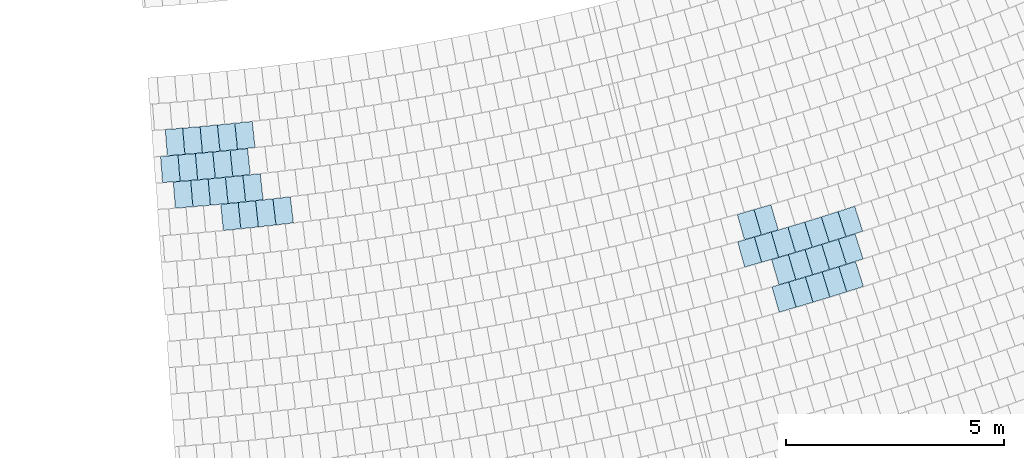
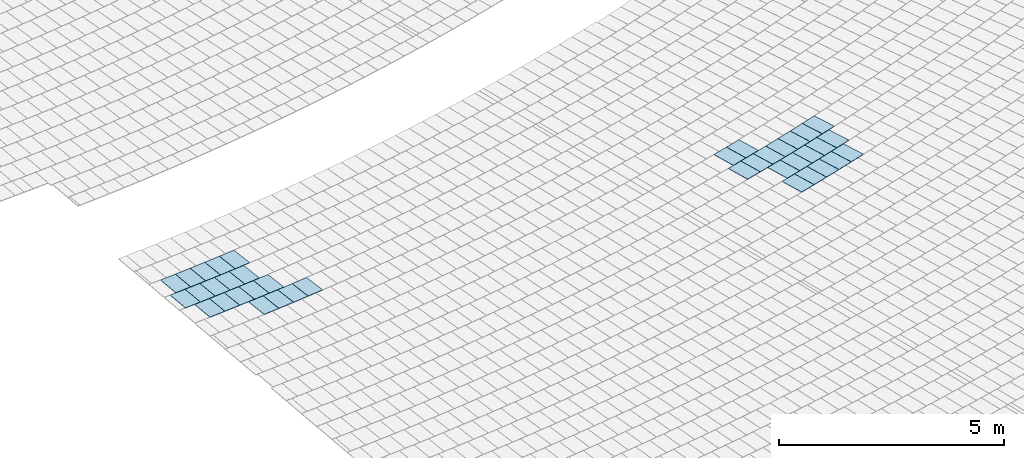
# One storey, part 53 of 438: 38 slabs.
"""IFC2X3 building model written with IfcOpenShell, lengths in millimetres."""

from ifc_helpers import new_model, entity, si_unit, converted_unit, derived_unit, direction, frame, frame_2d, origin, place, context, subcontext, project, spatial, polyline, rectangle, outline, extrude, material, layer, layer_set, layer_usage, type_object, element, save


model = new_model("IFC2X3")

# Units and contexts
model_context = context("Model", 3, precision=0.01, world=origin(), true_north=direction((6.123031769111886e-17, 1.0)))
body_context = subcontext(model_context, "Body", "Model", "MODEL_VIEW")
ifc_project = project(units=[si_unit("LENGTHUNIT", "METRE", prefix="MILLI"), si_unit("AREAUNIT", "SQUARE_METRE"), si_unit("VOLUMEUNIT", "CUBIC_METRE"), converted_unit("PLANEANGLEUNIT", "DEGREE", entity("IfcRatioMeasure", 0.017453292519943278), si_unit("PLANEANGLEUNIT", "RADIAN"), dimensions=[0, 0, 0, 0, 0, 0, 0]), si_unit("MASSUNIT", "GRAM", prefix="KILO"), derived_unit("MASSDENSITYUNIT", [(si_unit("MASSUNIT", "GRAM", prefix="KILO"), 1), (si_unit("LENGTHUNIT", "METRE"), -3)]), derived_unit("MOMENTOFINERTIAUNIT", [(si_unit("LENGTHUNIT", "METRE"), 4)]), si_unit("TIMEUNIT", "SECOND"), si_unit("FREQUENCYUNIT", "HERTZ"), si_unit("THERMODYNAMICTEMPERATUREUNIT", "DEGREE_CELSIUS"), derived_unit("THERMALTRANSMITTANCEUNIT", [(si_unit("MASSUNIT", "GRAM", prefix="KILO"), 1), (si_unit("THERMODYNAMICTEMPERATUREUNIT", "KELVIN"), -1), (si_unit("TIMEUNIT", "SECOND"), -3)]), derived_unit("THERMALCONDUCTANCEUNIT", [(si_unit("MASSUNIT", "GRAM", prefix="KILO"), 1), (si_unit("LENGTHUNIT", "METRE"), 1), (si_unit("THERMODYNAMICTEMPERATUREUNIT", "KELVIN"), -1), (si_unit("TIMEUNIT", "SECOND"), -3)]), derived_unit("VOLUMETRICFLOWRATEUNIT", [(si_unit("LENGTHUNIT", "METRE"), 3), (si_unit("TIMEUNIT", "SECOND"), -1)]), derived_unit("MASSFLOWRATEUNIT", [(si_unit("MASSUNIT", "GRAM", prefix="KILO"), 1), (si_unit("TIMEUNIT", "SECOND"), -1)]), derived_unit("ROTATIONALFREQUENCYUNIT", [(si_unit("TIMEUNIT", "SECOND"), -1)]), si_unit("ELECTRICCURRENTUNIT", "AMPERE"), si_unit("ELECTRICVOLTAGEUNIT", "VOLT"), si_unit("POWERUNIT", "WATT"), converted_unit("FORCEUNIT", "KIP", entity("IfcRatioMeasure", 2.088543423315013e-05), si_unit("FORCEUNIT", "NEWTON"), dimensions=[1, 1, -2, 0, 0, 0, 0]), si_unit("ILLUMINANCEUNIT", "LUX"), si_unit("LUMINOUSFLUXUNIT", "LUMEN"), si_unit("LUMINOUSINTENSITYUNIT", "CANDELA"), derived_unit("USERDEFINED", [(si_unit("MASSUNIT", "GRAM", prefix="KILO"), -1), (si_unit("LENGTHUNIT", "METRE"), -2), (si_unit("TIMEUNIT", "SECOND"), 3), (si_unit("LUMINOUSFLUXUNIT", "LUMEN"), 1)]), derived_unit("USERDEFINED", [(si_unit("MASSUNIT", "GRAM", prefix="KILO"), 1), (si_unit("LENGTHUNIT", "METRE"), 3), (si_unit("TIMEUNIT", "SECOND"), -3), (si_unit("ELECTRICCURRENTUNIT", "AMPERE"), -2)]), derived_unit("USERDEFINED", [(si_unit("LENGTHUNIT", "METRE"), 2), (si_unit("TIMEUNIT", "SECOND"), -2)]), derived_unit("SOUNDPOWERUNIT", [(si_unit("MASSUNIT", "GRAM", prefix="KILO"), 1), (si_unit("LENGTHUNIT", "METRE"), 2), (si_unit("TIMEUNIT", "SECOND"), -3)]), derived_unit("SOUNDPRESSUREUNIT", [(si_unit("MASSUNIT", "GRAM", prefix="KILO"), 1), (si_unit("LENGTHUNIT", "METRE"), -1), (si_unit("TIMEUNIT", "SECOND"), -2)]), derived_unit("LINEARVELOCITYUNIT", [(si_unit("LENGTHUNIT", "METRE"), 1), (si_unit("TIMEUNIT", "SECOND"), -1)]), si_unit("PRESSUREUNIT", "PASCAL"), derived_unit("USERDEFINED", [(si_unit("LENGTHUNIT", "METRE"), -2), (si_unit("MASSUNIT", "GRAM", prefix="KILO"), 1), (si_unit("TIMEUNIT", "SECOND"), -2)]), derived_unit("LINEARFORCEUNIT", [(si_unit("MASSUNIT", "GRAM", prefix="KILO"), 1), (si_unit("LENGTHUNIT", "METRE"), 1), (si_unit("TIMEUNIT", "SECOND"), -2), (si_unit("LENGTHUNIT", "METRE"), -1)]), derived_unit("PLANARFORCEUNIT", [(si_unit("MASSUNIT", "GRAM", prefix="KILO"), 1), (si_unit("LENGTHUNIT", "METRE"), 1), (si_unit("TIMEUNIT", "SECOND"), -2), (si_unit("LENGTHUNIT", "METRE"), -2)]), derived_unit("SPECIFICHEATCAPACITYUNIT", [(si_unit("LENGTHUNIT", "METRE"), 2), (si_unit("TIMEUNIT", "SECOND"), -2), (si_unit("THERMODYNAMICTEMPERATUREUNIT", "KELVIN"), -1)]), derived_unit("VAPORPERMEABILITYUNIT", [(si_unit("TIMEUNIT", "SECOND"), 1), (si_unit("LENGTHUNIT", "METRE"), -1)]), derived_unit("DYNAMICVISCOSITYUNIT", [(si_unit("MASSUNIT", "GRAM", prefix="KILO"), 1), (si_unit("LENGTHUNIT", "METRE"), -1), (si_unit("TIMEUNIT", "SECOND"), -1)]), derived_unit("THERMALEXPANSIONCOEFFICIENTUNIT", [(si_unit("THERMODYNAMICTEMPERATUREUNIT", "KELVIN"), -1)])], contexts=[model_context])

# Site, building, storey
site_placement = place(None, frame((0.0, 0.0, 0.0), z_axis=(0.0, 0.0, 1.0), x_axis=(0.8191520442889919, 0.5735764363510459, 0.0)))
site = spatial("IfcSite", under=ifc_project, at=site_placement, Name="Default", CompositionType="ELEMENT")
building_placement = place(site_placement, origin())
building = spatial("IfcBuilding", under=site, at=building_placement, CompositionType="ELEMENT")
storey_placement = place(building_placement, origin())
storey = spatial("IfcBuildingStorey", under=building, at=storey_placement, Name="PLAN", CompositionType="ELEMENT", Elevation=0.0)

# Slabs
ifc_material = material(Name="Paint-01")
ifc_layer = layer(ifc_material, 20.00000000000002)
ifc_layer_set = layer_set([ifc_layer], Name="Floor:Slab-179:1000")
ifc_layer_usage = layer_usage(ifc_layer_set, "AXIS3", "POSITIVE", 0.0)
slab_type = type_object("IfcSlabType", Name="Floor:Slab-179:1000", PredefinedType="FLOOR", material=ifc_layer_set)
slab_1_placement = place(storey_placement, origin())
element("IfcSlab", 1, at=slab_1_placement, inside=storey, type_object=slab_type, material=ifc_layer_usage, Name="Floor:Slab-179:1000", ObjectType="Floor:Slab-179:1000", PredefinedType="FLOOR", context=body_context, shape_type="SweptSolid", body=[
    extrude(outline(polyline([(-300.0000010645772, -200.0000029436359), (299.9999989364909, -200.00000294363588), (300.0000010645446, 200.00000294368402), (-299.9999989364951, 200.00000294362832), (-300.0000010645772, -200.0000029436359)])), frame((-71324.44986486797, -123055.56187801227, 20.0), z_axis=(0.0, 0.0, -1.0), x_axis=(-0.4903105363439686, -0.8715478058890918, 0.0)), (0.0, 0.0, 1.0), 20.00000000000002),
])
slab_2_placement = place(storey_placement, origin())
element("IfcSlab", 2, at=slab_2_placement, inside=storey, type_object=slab_type, material=ifc_layer_usage, Name="Floor:Slab-179:1000", ObjectType="Floor:Slab-179:1000", PredefinedType="FLOOR", context=body_context, shape_type="SweptSolid", body=[
    extrude(outline(polyline([(-300.0000010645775, -200.00000294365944), (299.99999893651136, -200.00000294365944), (300.00000106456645, 200.00000294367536), (-299.9999989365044, 200.00000294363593), (-300.0000010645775, -200.00000294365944)])), frame((-70621.4038906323, -123445.21542665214, 20.0), z_axis=(0.0, 0.0, -1.0), x_axis=(-0.4791916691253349, -0.8777102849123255, 0.0)), (0.0, 0.0, 1.0), 20.00000000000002),
])
slab_3_placement = place(storey_placement, origin())
element("IfcSlab", 3, at=slab_3_placement, inside=storey, type_object=slab_type, material=ifc_layer_usage, Name="Floor:Slab-179:1000", ObjectType="Floor:Slab-179:1000", PredefinedType="FLOOR", context=body_context, shape_type="SweptSolid", body=[
    extrude(outline(polyline([(-300.0000010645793, -200.000002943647), (299.99999893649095, -200.000002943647), (300.0000010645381, 200.0000029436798), (-299.99999893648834, 200.00000294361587), (-300.0000010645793, -200.000002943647)])), frame((-70973.5460634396, -123251.50583965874, 20.0), z_axis=(0.0, 0.0, -1.0), x_axis=(-0.48476089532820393, -0.8746467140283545, 0.0)), (0.0, 0.0, 1.0), 20.00000000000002),
])
slab_4_placement = place(storey_placement, origin())
element("IfcSlab", 4, at=slab_4_placement, inside=storey, type_object=slab_type, material=ifc_layer_usage, Name="Floor:Slab-179:1000", ObjectType="Floor:Slab-179:1000", PredefinedType="FLOOR", context=body_context, shape_type="SweptSolid", body=[
    extrude(outline(polyline([(-300.00000106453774, -200.00000294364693), (299.99999893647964, -200.00000294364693), (300.00000106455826, 200.0000029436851), (-299.9999989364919, 200.00000294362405), (-300.00000106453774, -200.00000294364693)])), frame((-70268.03757360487, -123636.682812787, 20.0), z_axis=(0.0, 0.0, -1.0), x_axis=(-0.47360308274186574, -0.8807383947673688, 0.0)), (0.0, 0.0, 1.0), 20.000000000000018),
])
slab_5_placement = place(storey_placement, origin())
element("IfcSlab", 5, at=slab_5_placement, inside=storey, type_object=slab_type, material=ifc_layer_usage, Name="Floor:Slab-179:1000", ObjectType="Floor:Slab-179:1000", PredefinedType="FLOOR", context=body_context, shape_type="SweptSolid", body=[
    extrude(outline(polyline([(-300.0000010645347, -200.00000294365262), (299.99999893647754, -200.00000294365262), (300.0000010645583, 200.00000294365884), (-299.9999989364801, 200.00000294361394), (-300.0000010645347, -200.00000294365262)])), frame((-71927.92090156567, -122012.0337767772, 20.0), z_axis=(0.0, 0.0, -1.0), x_axis=(-0.5046835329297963, -0.8633044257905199, 0.0)), (0.0, 0.0, 1.0), 20.00000000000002),
])
slab_6_placement = place(storey_placement, origin())
element("IfcSlab", 6, at=slab_6_placement, inside=storey, type_object=slab_type, material=ifc_layer_usage, Name="Floor:Slab-179:1000", ObjectType="Floor:Slab-179:1000", PredefinedType="FLOOR", context=body_context, shape_type="SweptSolid", body=[
    extrude(rectangle(XDim=599.9996991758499, YDim=399.99980533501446, at=frame_2d((-1.1851852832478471e-11, -3.169020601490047e-12), x_axis=(1.0, 0.0))), frame((-71580.44960693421, -122213.43971218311, 20.0), z_axis=(0.0, 0.0, -1.0), x_axis=(-0.5000000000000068, -0.8660254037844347, 0.0)), (0.0, 0.0, 1.0), 20.00000000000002),
])
slab_7_placement = place(storey_placement, origin())
element("IfcSlab", 7, at=slab_7_placement, inside=storey, type_object=slab_type, material=ifc_layer_usage, Name="Floor:Slab-179:1000", ObjectType="Floor:Slab-179:1000", PredefinedType="FLOOR", context=body_context, shape_type="SweptSolid", body=[
    extrude(outline(polyline([(-300.0000010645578, -200.0000029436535), (299.9999989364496, -200.0000029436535), (300.0000010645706, 200.0000029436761), (-299.9999989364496, 200.0000029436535), (-300.0000010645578, -200.0000029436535)])), frame((-71231.37073717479, -122413.25772874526, 20.0), z_axis=(0.0, 0.0, -1.0), x_axis=(-0.49356097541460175, -0.8697111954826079, 0.0)), (0.0, 0.0, 1.0), 20.00000000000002),
])
slab_8_placement = place(storey_placement, origin())
element("IfcSlab", 8, at=slab_8_placement, inside=storey, type_object=slab_type, material=ifc_layer_usage, Name="Floor:Slab-179:1000", ObjectType="Floor:Slab-179:1000", PredefinedType="FLOOR", context=body_context, shape_type="SweptSolid", body=[
    extrude(outline(polyline([(-300.00000106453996, -200.00000294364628), (299.99999893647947, -200.00000294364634), (300.0000010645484, 200.00000294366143), (-299.99999893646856, 200.0000029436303), (-300.00000106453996, -200.00000294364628)])), frame((-70881.17874432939, -122610.50865881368, 20.0), z_axis=(0.0, 0.0, -1.0), x_axis=(-0.48796908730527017, -0.8728609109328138, 0.0)), (0.0, 0.0, 1.0), 20.00000000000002),
])
slab_9_placement = place(storey_placement, origin())
element("IfcSlab", 9, at=slab_9_placement, inside=storey, type_object=slab_type, material=ifc_layer_usage, Name="Floor:Slab-179:1000", ObjectType="Floor:Slab-179:1000", PredefinedType="FLOOR", context=body_context, shape_type="SweptSolid", body=[
    extrude(outline(polyline([(-300.0000010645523, -200.0000029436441), (299.9999989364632, -200.0000029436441), (300.000001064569, 200.00000294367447), (-299.9999989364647, 200.00000294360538), (-300.0000010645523, -200.0000029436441)])), frame((-70529.72802607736, -122805.50802780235, 20.0), z_axis=(0.0, 0.0, -1.0), x_axis=(-0.4823570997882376, -0.8759746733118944, 0.0)), (0.0, 0.0, 1.0), 20.00000000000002),
])
slab_10_placement = place(storey_placement, origin())
element("IfcSlab", 10, at=slab_10_placement, inside=storey, type_object=slab_type, material=ifc_layer_usage, Name="Floor:Slab-179:1000", ObjectType="Floor:Slab-179:1000", PredefinedType="FLOOR", context=body_context, shape_type="SweptSolid", body=[
    extrude(outline(polyline([(-300.00000106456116, -200.00000294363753), (299.99999893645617, -200.0000029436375), (300.00000106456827, 200.00000294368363), (-299.9999989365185, 200.00000294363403), (-300.00000106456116, -200.00000294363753)])), frame((-71832.8962809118, -121366.23356572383, 20.0), z_axis=(0.0, 0.0, -1.0), x_axis=(-0.5080745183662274, -0.8613131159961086, 0.0)), (0.0, 0.0, 1.0), 20.00000000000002),
])
slab_11_placement = place(storey_placement, origin())
element("IfcSlab", 11, at=slab_11_placement, inside=storey, type_object=slab_type, material=ifc_layer_usage, Name="Floor:Slab-179:1000", ObjectType="Floor:Slab-179:1000", PredefinedType="FLOOR", context=body_context, shape_type="SweptSolid", body=[
    extrude(outline(polyline([(-300.00000106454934, -200.00000294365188), (299.9999989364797, -200.00000294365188), (300.00000106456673, 200.00000294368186), (-299.9999989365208, 200.00000294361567), (-300.00000106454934, -200.00000294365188)])), frame((-71486.03829597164, -121569.32723453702, 20.0), z_axis=(0.0, 0.0, -1.0), x_axis=(-0.5024818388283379, -0.8645877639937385, 0.0)), (0.0, 0.0, 1.0), 20.000000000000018),
])
slab_12_placement = place(storey_placement, origin())
element("IfcSlab", 12, at=slab_12_placement, inside=storey, type_object=slab_type, material=ifc_layer_usage, Name="Floor:Slab-179:1000", ObjectType="Floor:Slab-179:1000", PredefinedType="FLOOR", context=body_context, shape_type="SweptSolid", body=[
    extrude(outline(polyline([(-300.00000106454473, -200.00000294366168), (299.9999989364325, -200.00000294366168), (300.0000010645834, 200.00000294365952), (-299.9999989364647, 200.00000294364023), (-300.00000106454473, -200.00000294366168)])), frame((-71137.87138311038, -121770.16871635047, 20.0), z_axis=(0.0, 0.0, -1.0), x_axis=(-0.49686805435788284, -0.8678260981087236, 0.0)), (0.0, 0.0, 1.0), 20.00000000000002),
])
slab_13_placement = place(storey_placement, origin())
element("IfcSlab", 13, at=slab_13_placement, inside=storey, type_object=slab_type, material=ifc_layer_usage, Name="Floor:Slab-179:1000", ObjectType="Floor:Slab-179:1000", PredefinedType="FLOOR", context=body_context, shape_type="SweptSolid", body=[
    extrude(outline(polyline([(-300.0000010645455, -200.0000029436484), (299.99999893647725, -200.00000294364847), (300.00000106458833, 200.00000294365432), (-299.99999893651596, 200.00000294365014), (-300.0000010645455, -200.0000029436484)])), frame((-70437.66932195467, -122165.06147144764, 20.0), z_axis=(0.0, 0.0, -1.0), x_axis=(-0.48557811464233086, -0.8741932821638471, 0.0)), (0.0, 0.0, 1.0), 20.000000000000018),
])
slab_14_placement = place(storey_placement, origin())
element("IfcSlab", 14, at=slab_14_placement, inside=storey, type_object=slab_type, material=ifc_layer_usage, Name="Floor:Slab-179:1000", ObjectType="Floor:Slab-179:1000", PredefinedType="FLOOR", context=body_context, shape_type="SweptSolid", body=[
    extrude(outline(polyline([(-300.0000010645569, -200.00000294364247), (299.999998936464, -200.00000294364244), (300.0000010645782, 200.00000294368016), (-299.9999989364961, 200.0000029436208), (-300.0000010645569, -200.00000294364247)])), frame((-70788.4101658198, -121968.74957554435, 20.0), z_axis=(0.0, 0.0, -1.0), x_axis=(-0.4912334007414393, -0.8710279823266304, 0.0)), (0.0, 0.0, 1.0), 20.000000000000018),
])
slab_15_placement = place(storey_placement, origin())
element("IfcSlab", 15, at=slab_15_placement, inside=storey, type_object=slab_type, material=ifc_layer_usage, Name="Floor:Slab-179:1000", ObjectType="Floor:Slab-179:1000", PredefinedType="FLOOR", context=body_context, shape_type="SweptSolid", body=[
    extrude(outline(polyline([(-300.0000010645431, -200.00000294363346), (299.9999989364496, -200.00000294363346), (300.0000010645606, 200.0000029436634), (-299.9999989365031, 200.0000029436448), (-300.0000010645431, -200.00000294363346)])), frame((-71391.33096595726, -120924.06079852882, 20.0), z_axis=(0.0, 0.0, -1.0), x_axis=(-0.5058897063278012, -0.862598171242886, 0.0)), (0.0, 0.0, 1.0), 20.00000000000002),
])
slab_16_placement = place(storey_placement, origin())
element("IfcSlab", 16, at=slab_16_placement, inside=storey, type_object=slab_type, material=ifc_layer_usage, Name="Floor:Slab-179:1000", ObjectType="Floor:Slab-179:1000", PredefinedType="FLOOR", context=body_context, shape_type="SweptSolid", body=[
    extrude(rectangle(XDim=599.9999782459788, YDim=399.9999913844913, at=frame_2d((1.5006662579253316e-11, -8.65441052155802e-12), x_axis=(1.0, 0.0))), frame((-71043.89319218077, -121126.36018318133, 20.0), z_axis=(0.0, 0.0, -1.0), x_axis=(-0.5000000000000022, -0.8660254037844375, 0.0)), (0.0, 0.0, 1.0), 20.00000000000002),
])
slab_17_placement = place(storey_placement, origin())
element("IfcSlab", 17, at=slab_17_placement, inside=storey, type_object=slab_type, material=ifc_layer_usage, Name="Floor:Slab-179:1000", ObjectType="Floor:Slab-179:1000", PredefinedType="FLOOR", context=body_context, shape_type="SweptSolid", body=[
    extrude(outline(polyline([(-300.0000010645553, -200.00000294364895), (299.99999893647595, -200.0000029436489), (300.0000010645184, 200.0000029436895), (-299.9999989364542, 200.0000029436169), (-300.0000010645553, -200.00000294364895)])), frame((-70345.2135894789, -121523.85522774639, 20.0), z_axis=(0.0, 0.0, -1.0), x_axis=(-0.4888561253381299, -0.8723644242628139, 0.0)), (0.0, 0.0, 1.0), 20.00000000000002),
])
slab_18_placement = place(storey_placement, origin())
element("IfcSlab", 18, at=slab_18_placement, inside=storey, type_object=slab_type, material=ifc_layer_usage, Name="Floor:Slab-179:1000", ObjectType="Floor:Slab-179:1000", PredefinedType="FLOOR", context=body_context, shape_type="SweptSolid", body=[
    extrude(outline(polyline([(-300.0000010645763, -200.00000294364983), (299.99999893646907, -200.00000294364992), (300.00000106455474, 200.00000294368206), (-299.99999893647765, 200.00000294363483), (-300.0000010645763, -200.00000294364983)])), frame((-70695.2254558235, -121326.20747963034, 20.0), z_axis=(0.0, 0.0, -1.0), x_axis=(-0.4945552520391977, -0.8691461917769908, 0.0)), (0.0, 0.0, 1.0), 20.00000000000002),
])
slab_19_placement = place(storey_placement, origin())
element("IfcSlab", 19, at=slab_19_placement, inside=storey, type_object=slab_type, material=ifc_layer_usage, Name="Floor:Slab-179:1000", ObjectType="Floor:Slab-179:1000", PredefinedType="FLOOR", context=body_context, shape_type="SweptSolid", body=[
    extrude(outline(polyline([(-300.00000106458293, -200.0000029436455), (299.9999989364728, -200.0000029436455), (300.0000010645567, 200.0000029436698), (-299.9999989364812, 200.00000294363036), (-300.00000106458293, -200.0000029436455)])), frame((-69993.91562167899, -121719.20792605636, 20.0), z_axis=(0.0, 0.0, -1.0), x_axis=(-0.4831360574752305, -0.8755452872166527, 0.0)), (0.0, 0.0, 1.0), 20.00000000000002),
])
slab_20_placement = place(storey_placement, origin())
element("IfcSlab", 20, at=slab_20_placement, inside=storey, type_object=slab_type, material=ifc_layer_usage, Name="Floor:Slab-179:1000", ObjectType="Floor:Slab-179:1000", PredefinedType="FLOOR", context=body_context, shape_type="SweptSolid", body=[
    extrude(outline(polyline([(-300.0000010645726, -200.00000294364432), (299.99999893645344, -200.00000294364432), (300.00000106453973, 200.0000029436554), (-299.99999893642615, 200.0000029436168), (-300.0000010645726, -200.00000294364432)])), frame((-61324.90516006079, -130147.3150987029, 20.0), z_axis=(0.0, 0.0, -1.0), x_axis=(-0.31992064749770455, -0.9474443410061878, 0.0)), (0.0, 0.0, 1.0), 20.00000000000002),
])
slab_21_placement = place(storey_placement, origin())
element("IfcSlab", 21, at=slab_21_placement, inside=storey, type_object=slab_type, material=ifc_layer_usage, Name="Floor:Slab-179:1000", ObjectType="Floor:Slab-179:1000", PredefinedType="FLOOR", context=body_context, shape_type="SweptSolid", body=[
    extrude(outline(polyline([(-300.0000010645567, -200.00000294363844), (299.999998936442, -200.00000294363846), (300.00000106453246, 200.0000029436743), (-299.99999893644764, 200.0000029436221), (-300.0000010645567, -200.00000294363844)])), frame((-61705.22566238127, -130017.5954287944, 20.0), z_axis=(0.0, 0.0, -1.0), x_axis=(-0.3257138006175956, -0.9454684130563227, 0.0)), (0.0, 0.0, 1.0), 20.00000000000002),
])
slab_22_placement = place(storey_placement, origin())
element("IfcSlab", 22, at=slab_22_placement, inside=storey, type_object=slab_type, material=ifc_layer_usage, Name="Floor:Slab-179:1000", ObjectType="Floor:Slab-179:1000", PredefinedType="FLOOR", context=body_context, shape_type="SweptSolid", body=[
    extrude(outline(polyline([(-300.00000106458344, -200.00000294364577), (299.9999989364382, -200.00000294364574), (300.00000106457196, 200.00000294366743), (-299.99999893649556, 200.00000294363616), (-300.00000106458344, -200.00000294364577)])), frame((-59767.400096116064, -131284.83354462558, 20.0), z_axis=(0.0, 0.0, -1.0), x_axis=(-0.29349159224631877, -0.9559616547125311, 0.0)), (0.0, 0.0, 1.0), 20.00000000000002),
])
slab_23_placement = place(storey_placement, origin())
element("IfcSlab", 23, at=slab_23_placement, inside=storey, type_object=slab_type, material=ifc_layer_usage, Name="Floor:Slab-179:1000", ObjectType="Floor:Slab-179:1000", PredefinedType="FLOOR", context=body_context, shape_type="SweptSolid", body=[
    extrude(outline(polyline([(-300.0000010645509, -200.00000294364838), (299.99999893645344, -200.00000294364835), (300.00000106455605, 200.0000029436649), (-299.9999989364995, 200.00000294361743), (-300.0000010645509, -200.00000294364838)])), frame((-60151.16292347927, -131165.73920971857, 20.0), z_axis=(0.0, 0.0, -1.0), x_axis=(-0.2992838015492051, -0.9541641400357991, 0.0)), (0.0, 0.0, 1.0), 20.00000000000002),
])
slab_24_placement = place(storey_placement, origin())
element("IfcSlab", 24, at=slab_24_placement, inside=storey, type_object=slab_type, material=ifc_layer_usage, Name="Floor:Slab-179:1000", ObjectType="Floor:Slab-179:1000", PredefinedType="FLOOR", context=body_context, shape_type="SweptSolid", body=[
    extrude(outline(polyline([(-300.0000010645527, -200.00000294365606), (299.9999989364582, -200.00000294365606), (300.0000010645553, 200.00000294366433), (-299.9999989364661, 200.00000294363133), (-300.0000010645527, -200.00000294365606)])), frame((-60534.19642362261, -131044.31966417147, 20.0), z_axis=(0.0, 0.0, -1.0), x_axis=(-0.30506500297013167, -0.952331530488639, 0.0)), (0.0, 0.0, 1.0), 20.000000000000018),
])
slab_25_placement = place(storey_placement, origin())
element("IfcSlab", 25, at=slab_25_placement, inside=storey, type_object=slab_type, material=ifc_layer_usage, Name="Floor:Slab-179:1000", ObjectType="Floor:Slab-179:1000", PredefinedType="FLOOR", context=body_context, shape_type="SweptSolid", body=[
    extrude(outline(polyline([(-300.00000106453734, -200.0000029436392), (299.9999989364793, -200.0000029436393), (300.0000010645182, 200.00000294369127), (-299.99999893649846, 200.00000294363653), (-300.00000106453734, -200.0000029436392)])), frame((-61298.01911655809, -130794.52289012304, 20.0), z_axis=(0.0, 0.0, -1.0), x_axis=(-0.31659353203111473, -0.9485612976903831, 0.0)), (0.0, 0.0, 1.0), 20.00000000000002),
])
slab_26_placement = place(storey_placement, origin())
element("IfcSlab", 26, at=slab_26_placement, inside=storey, type_object=slab_type, material=ifc_layer_usage, Name="Floor:Slab-179:1000", ObjectType="Floor:Slab-179:1000", PredefinedType="FLOOR", context=body_context, shape_type="SweptSolid", body=[
    extrude(outline(polyline([(-300.0000010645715, -200.00000294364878), (299.99999893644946, -200.00000294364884), (300.00000106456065, 200.00000294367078), (-299.999998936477, 200.0000029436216), (-300.0000010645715, -200.00000294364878)])), frame((-61678.78021538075, -130666.15484933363, 20.0), z_axis=(0.0, 0.0, -1.0), x_axis=(-0.32234043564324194, -0.9466238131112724, 0.0)), (0.0, 0.0, 1.0), 20.000000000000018),
])
slab_27_placement = place(storey_placement, origin())
element("IfcSlab", 27, at=slab_27_placement, inside=storey, type_object=slab_type, material=ifc_layer_usage, Name="Floor:Slab-179:1000", ObjectType="Floor:Slab-179:1000", PredefinedType="FLOOR", context=body_context, shape_type="SweptSolid", body=[
    extrude(outline(polyline([(-300.00000106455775, -200.0000029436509), (299.99999893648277, -200.00000294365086), (300.0000010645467, 200.00000294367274), (-299.99999893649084, 200.00000294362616), (-300.00000106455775, -200.0000029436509)])), frame((-60916.48650828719, -130920.57937388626, 20.0), z_axis=(0.0, 0.0, -1.0), x_axis=(-0.31083498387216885, -0.9504638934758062, 0.0)), (0.0, 0.0, 1.0), 20.000000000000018),
])
slab_28_placement = place(storey_placement, origin())
element("IfcSlab", 28, at=slab_28_placement, inside=storey, type_object=slab_type, material=ifc_layer_usage, Name="Floor:Slab-179:1000", ObjectType="Floor:Slab-179:1000", PredefinedType="FLOOR", context=body_context, shape_type="SweptSolid", body=[
    extrude(outline(polyline([(-300.0000010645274, -200.00000294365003), (299.99999893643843, -200.00000294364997), (300.000001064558, 200.00000294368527), (-299.999998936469, 200.0000029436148), (-300.0000010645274, -200.00000294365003)])), frame((-62058.75580007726, -130535.47997299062, 20.0), z_axis=(0.0, 0.0, -1.0), x_axis=(-0.32807548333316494, -0.9446515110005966, 0.0)), (0.0, 0.0, 1.0), 20.000000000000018),
])
slab_29_placement = place(storey_placement, origin())
element("IfcSlab", 29, at=slab_29_placement, inside=storey, type_object=slab_type, material=ifc_layer_usage, Name="Floor:Slab-179:1000", ObjectType="Floor:Slab-179:1000", PredefinedType="FLOOR", context=body_context, shape_type="SweptSolid", body=[
    extrude(outline(polyline([(-300.0000010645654, -200.00000294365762), (299.9999989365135, -200.00000294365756), (300.00000106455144, 200.00000294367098), (-299.9999989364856, 200.00000294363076), (-300.0000010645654, -200.00000294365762)])), frame((-60122.84627178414, -131808.30681761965, 20.0), z_axis=(0.0, 0.0, -1.0), x_axis=(-0.2961521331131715, -0.9551407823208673, 0.0)), (0.0, 0.0, 1.0), 20.00000000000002),
])
slab_30_placement = place(storey_placement, origin())
element("IfcSlab", 30, at=slab_30_placement, inside=storey, type_object=slab_type, material=ifc_layer_usage, Name="Floor:Slab-179:1000", ObjectType="Floor:Slab-179:1000", PredefinedType="FLOOR", context=body_context, shape_type="SweptSolid", body=[
    extrude(outline(polyline([(-300.00000106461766, -200.00000294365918), (299.9999989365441, -200.00000294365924), (300.0000010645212, 200.00000294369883), (-299.99999893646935, 200.00000294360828), (-300.00000106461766, -200.00000294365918)])), frame((-60506.26358071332, -131688.15993920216, 20.0), z_axis=(0.0, 0.0, -1.0), x_axis=(-0.30188676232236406, -0.9533437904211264, 0.0)), (0.0, 0.0, 1.0), 20.00000000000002),
])
slab_31_placement = place(storey_placement, origin())
element("IfcSlab", 31, at=slab_31_placement, inside=storey, type_object=slab_type, material=ifc_layer_usage, Name="Floor:Slab-179:1000", ObjectType="Floor:Slab-179:1000", PredefinedType="FLOOR", context=body_context, shape_type="SweptSolid", body=[
    extrude(outline(polyline([(-300.0000010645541, -200.00000294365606), (299.99999893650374, -200.00000294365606), (300.00000106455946, 200.00000294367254), (-299.99999893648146, 200.00000294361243), (-300.0000010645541, -200.00000294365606)])), frame((-60888.95193603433, -131565.71106055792, 20.0), z_axis=(0.0, 0.0, -1.0), x_axis=(-0.3076104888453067, -0.95151236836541, 0.0)), (0.0, 0.0, 1.0), 20.000000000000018),
])
slab_32_placement = place(storey_placement, origin())
element("IfcSlab", 32, at=slab_32_placement, inside=storey, type_object=slab_type, material=ifc_layer_usage, Name="Floor:Slab-179:1000", ObjectType="Floor:Slab-179:1000", PredefinedType="FLOOR", context=body_context, shape_type="SweptSolid", body=[
    extrude(outline(polyline([(-300.000001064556, -200.00000294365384), (299.9999989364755, -200.00000294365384), (300.00000106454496, 200.00000294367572), (-299.9999989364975, 200.0000029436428), (-300.000001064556, -200.00000294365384)])), frame((-61270.89751690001, -131440.96460394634, 20.0), z_axis=(0.0, 0.0, -1.0), x_axis=(-0.3133231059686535, -0.9496465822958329, 0.0)), (0.0, 0.0, 1.0), 20.000000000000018),
])
slab_33_placement = place(storey_placement, origin())
element("IfcSlab", 33, at=slab_33_placement, inside=storey, type_object=slab_type, material=ifc_layer_usage, Name="Floor:Slab-179:1000", ObjectType="Floor:Slab-179:1000", PredefinedType="FLOOR", context=body_context, shape_type="SweptSolid", body=[
    extrude(outline(polyline([(-300.0000010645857, -200.0000029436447), (299.999998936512, -200.0000029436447), (300.0000010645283, 200.00000294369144), (-299.9999989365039, 200.0000029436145), (-300.0000010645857, -200.0000029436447)])), frame((-61652.08652928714, -131313.92507460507, 20.0), z_axis=(0.0, 0.0, -1.0), x_axis=(-0.3190244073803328, -0.9477464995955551, 0.0)), (0.0, 0.0, 1.0), 20.00000000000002),
])
slab_34_placement = place(storey_placement, origin())
element("IfcSlab", 34, at=slab_34_placement, inside=storey, type_object=slab_type, material=ifc_layer_usage, Name="Floor:Slab-179:1000", ObjectType="Floor:Slab-179:1000", PredefinedType="FLOOR", context=body_context, shape_type="SweptSolid", body=[
    extrude(outline(polyline([(-300.0000010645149, -200.0000029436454), (299.9999989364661, -200.00000294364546), (300.00000106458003, 200.00000294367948), (-299.99999893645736, 200.00000294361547), (-300.0000010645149, -200.0000029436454)])), frame((-60478.12736489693, -132331.29838928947, 20.0), z_axis=(0.0, 0.0, -1.0), x_axis=(-0.29876250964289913, -0.9543274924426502, 0.0)), (0.0, 0.0, 1.0), 20.00000000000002),
])
slab_35_placement = place(storey_placement, origin())
element("IfcSlab", 35, at=slab_35_placement, inside=storey, type_object=slab_type, material=ifc_layer_usage, Name="Floor:Slab-179:1000", ObjectType="Floor:Slab-179:1000", PredefinedType="FLOOR", context=body_context, shape_type="SweptSolid", body=[
    extrude(outline(polyline([(-300.0000010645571, -200.00000294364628), (299.99999893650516, -200.00000294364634), (300.0000010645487, 200.00000294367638), (-299.99999893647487, 200.0000029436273), (-300.0000010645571, -200.00000294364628)])), frame((-61243.54930703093, -132086.66018660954, 20.0), z_axis=(0.0, 0.0, -1.0), x_axis=(-0.3101079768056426, -0.9507013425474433, 0.0)), (0.0, 0.0, 1.0), 20.00000000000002),
])
slab_36_placement = place(storey_placement, origin())
element("IfcSlab", 36, at=slab_36_placement, inside=storey, type_object=slab_type, material=ifc_layer_usage, Name="Floor:Slab-179:1000", ObjectType="Floor:Slab-179:1000", PredefinedType="FLOOR", context=body_context, shape_type="SweptSolid", body=[
    extrude(outline(polyline([(-300.0000010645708, -200.00000294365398), (299.9999989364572, -200.00000294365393), (300.00000106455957, 200.00000294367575), (-299.9999989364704, 200.00000294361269), (-300.0000010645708, -200.00000294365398)])), frame((-60861.20257061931, -132210.1189022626, 20.0), z_axis=(0.0, 0.0, -1.0), x_axis=(-0.3044406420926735, -0.9525313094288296, 0.0)), (0.0, 0.0, 1.0), 20.00000000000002),
])
slab_37_placement = place(storey_placement, origin())
element("IfcSlab", 37, at=slab_37_placement, inside=storey, type_object=slab_type, material=ifc_layer_usage, Name="Floor:Slab-179:1000", ObjectType="Floor:Slab-179:1000", PredefinedType="FLOOR", context=body_context, shape_type="SweptSolid", body=[
    extrude(outline(polyline([(-300.0000010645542, -200.000002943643), (299.99999893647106, -200.000002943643), (300.0000010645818, 200.00000294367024), (-299.99999893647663, 200.00000294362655), (-300.0000010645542, -200.000002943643)])), frame((-62006.00315476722, -131832.92266517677, 20.0), z_axis=(0.0, 0.0, -1.0), x_axis=(-0.32140944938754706, -0.9469403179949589, 0.0)), (0.0, 0.0, 1.0), 20.00000000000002),
])
slab_38_placement = place(storey_placement, origin())
element("IfcSlab", 38, at=slab_38_placement, inside=storey, type_object=slab_type, material=ifc_layer_usage, Name="Floor:Slab-179:1000", ObjectType="Floor:Slab-179:1000", PredefinedType="FLOOR", context=body_context, shape_type="SweptSolid", body=[
    extrude(outline(polyline([(-300.0000010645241, -200.0000029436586), (299.9999989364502, -200.0000029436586), (300.0000010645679, 200.00000294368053), (-299.99999893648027, 200.00000294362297), (-300.0000010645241, -200.0000029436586)])), frame((-61625.15401326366, -131960.9266210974, 20.0), z_axis=(0.0, 0.0, -1.0), x_axis=(-0.3157643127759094, -0.9488376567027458, 0.0)), (0.0, 0.0, 1.0), 20.00000000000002),
])

save(model, "model.ifc")
